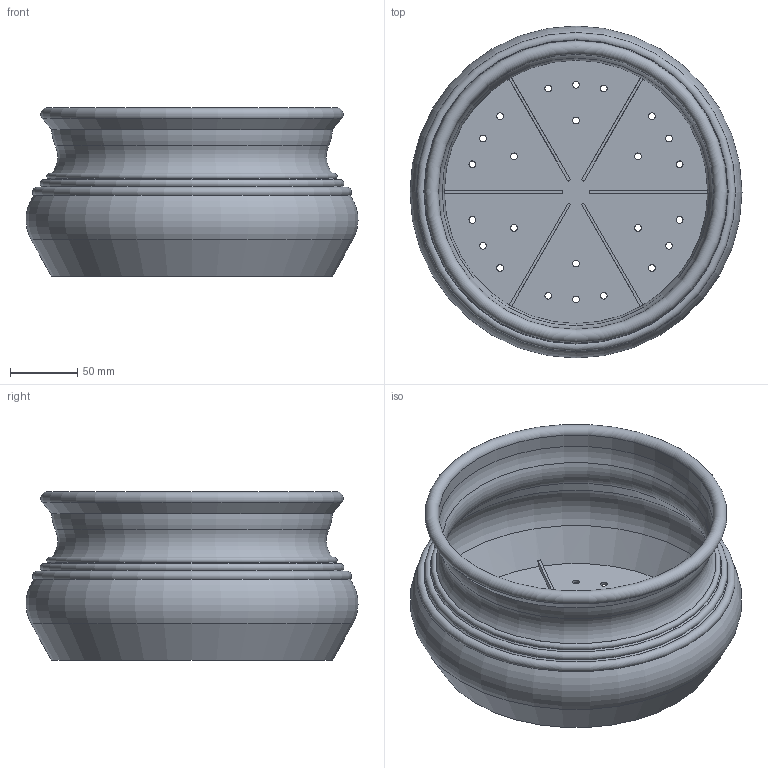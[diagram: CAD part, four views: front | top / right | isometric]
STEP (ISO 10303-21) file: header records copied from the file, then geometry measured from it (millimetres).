
FILE_DESCRIPTION(/* description */ (''),/* implementation_level */ '2;1');
FILE_NAME(/* name */ 'LR2406-S20-H125-D250_step.step',/* time_stamp */ '2024-02-01T11:01:05+01:00',/* author */ (''),/* organization */ (''),/* preprocessor_version */ 'ST-DEVELOPER v20',/* originating_system */ 'Autodesk Translation Framework v12.20.1.177',/* authorisation */ '');
FILE_SCHEMA (('AUTOMOTIVE_DESIGN { 1 0 10303 214 3 1 1 }'));
Length unit declared in the file: millimetre
Products named in the file (1): LR2406-S20-H125-D250
Bounding box: 245.99 x 245.99 x 125 mm (x, y, z)
Volume: 334317.2 mm3; surface area: 270738.4 mm2
Topology: 1 solids, 1 shells, 68 faces, 181 edges, 115 vertices
Faces by surface type: cylinder 31, plane 20, torus 10, cone 7
Full cylindrical faces by diameter (mm): 5 x24, 204 x1
Entity records: 2286 total; most frequent: DIRECTION 420, CARTESIAN_POINT 365, ORIENTED_EDGE 362, EDGE_CURVE 181, AXIS2_PLACEMENT_3D 170, EDGE_LOOP 116, VERTEX_POINT 115, CIRCLE 101
